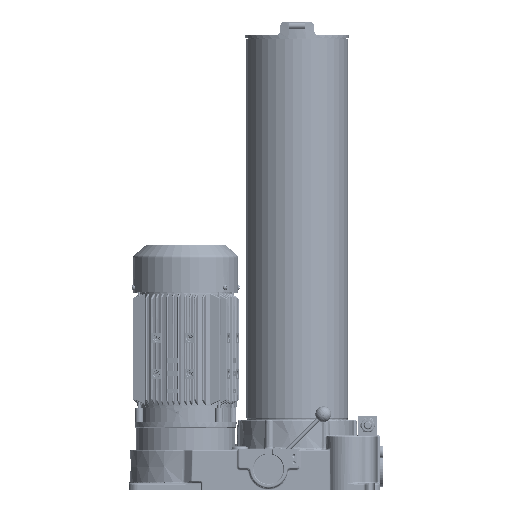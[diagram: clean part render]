
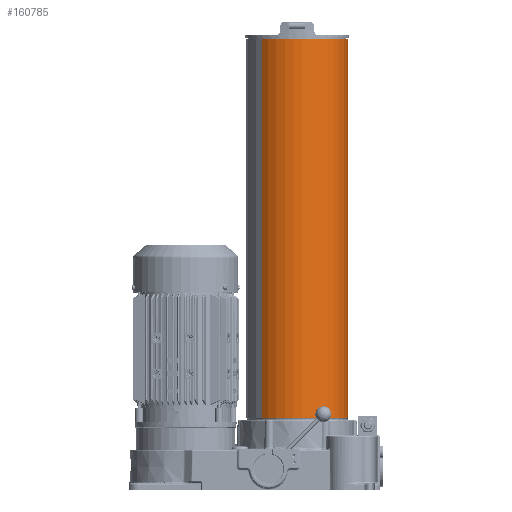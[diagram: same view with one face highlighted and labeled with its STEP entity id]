
A CAD part, top view. The second image highlights one B-rep face of the part: STEP entity #160785.
In plain terms, the highlighted cylindrical face has radius 80 mm (diameter 160 mm), a partial arc.
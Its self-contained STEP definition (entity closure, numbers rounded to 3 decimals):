
#43392=DIRECTION('',(0.,-1.,0.));
#43393=VECTOR('',#43392,595.293);
#43394=CARTESIAN_POINT('',(-55.92,708.,57.21));
#43395=LINE('',#43394,#43393);
#43396=CARTESIAN_POINT('',(0.,708.,0.));
#43397=DIRECTION('',(0.,-1.,0.));
#43398=DIRECTION('',(0.699,0.,-0.715));
#43399=AXIS2_PLACEMENT_3D('',#43396,#43397,#43398);
#43416=DIRECTION('',(0.,-1.,0.));
#43417=VECTOR('',#43416,595.293);
#43418=CARTESIAN_POINT('',(55.92,708.,-57.21));
#43419=LINE('',#43418,#43417);
#43420=CARTESIAN_POINT('',(0.,112.707,
0.));
#43421=DIRECTION('',(0.,1.,0.));
#43422=DIRECTION('',(-0.699,0.,0.715));
#43423=AXIS2_PLACEMENT_3D('',#43420,#43421,#43422);
#93483=CARTESIAN_POINT('',(55.92,112.707,
-57.21));
#93484=CARTESIAN_POINT('',(-55.92,112.707,
57.21));
#93485=VERTEX_POINT('',#93483);
#93486=VERTEX_POINT('',#93484);
#93487=CARTESIAN_POINT('',(-55.92,708.,57.21));
#93488=CARTESIAN_POINT('',(55.92,708.,-57.21));
#93489=VERTEX_POINT('',#93487);
#93490=VERTEX_POINT('',#93488);
#160773=CARTESIAN_POINT('',(0.,410.354,
0.));
#160774=DIRECTION('',(0.,1.,0.));
#160775=DIRECTION('',(-0.699,0.,0.715));
#160776=AXIS2_PLACEMENT_3D('',#160773,#160774,#160775);
#160777=CYLINDRICAL_SURFACE('',#160776,80.);
#160778=ORIENTED_EDGE('',*,*,#160761,.F.);
#160779=ORIENTED_EDGE('',*,*,#160751,.T.);
#160781=ORIENTED_EDGE('',*,*,#160780,.F.);
#160782=ORIENTED_EDGE('',*,*,#160748,.F.);
#160783=EDGE_LOOP('',(#160778,#160779,#160781,#160782));
#160784=FACE_OUTER_BOUND('',#160783,.F.);
#160785=ADVANCED_FACE('',(#160784),#160777,.T.);
#43400=CIRCLE('',#43399,80.);
#43424=CIRCLE('',#43423,80.);
#160748=EDGE_CURVE('',#93489,#93486,#43395,.T.);
#160751=EDGE_CURVE('',#93490,#93485,#43419,.T.);
#160761=EDGE_CURVE('',#93490,#93489,#43400,.T.);
#160780=EDGE_CURVE('',#93486,#93485,#43424,.T.);
